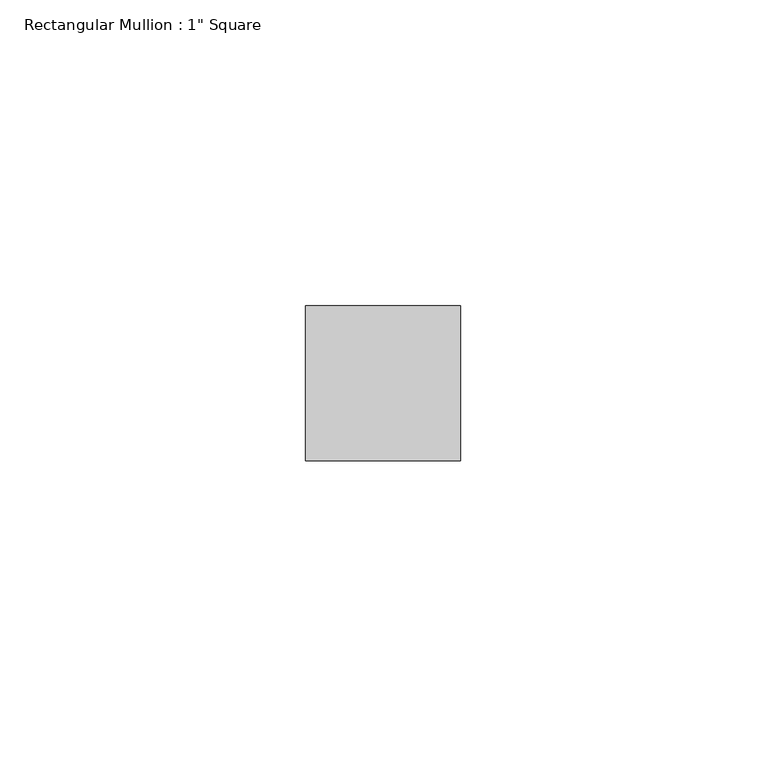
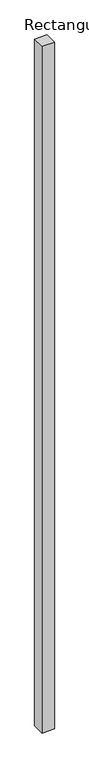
"""IFC4 building model written with IfcOpenShell, lengths in millimetres: member geometry."""

from ifc_helpers import new_model, si_unit, frame, origin, place, context, project, spatial, polyline, outline, extrude, source, transform, mapped, element, save


def member_8a20969f(model_context):
    return source(origin(), model_context, "Body", "SweptSolid", [
        extrude(outline(polyline([(12.7, 12.7), (12.7, -12.7), (-12.7, -12.7), (-12.7, 12.7), (12.7, 12.7)])), frame((0.0, 0.0, -1482.5626108), z_axis=(0.0, 0.0, 1.0), x_axis=(1.0, 0.0, 0.0)), (0.0, 0.0, 1.0), 1482.5626108),
    ])


if __name__ == "__main__":
    model = new_model("IFC4")
    model_context = context("Model", 3, world=origin())
    ifc_project = project(units=[si_unit("LENGTHUNIT", "METRE", prefix="MILLI")], contexts=[model_context])
    site = spatial("IfcSite", under=ifc_project)
    building = spatial("IfcBuilding", under=site)
    placement = place(None, origin())
    member_shape = member_8a20969f(model_context)
    element("IfcMember", 1, ObjectType="Rectangular Mullion : 1\" Square", at=placement, inside=building, context=model_context, shape_type="MappedRepresentation", body=[
        mapped(member_shape, transform((0.0, 0.0, 0.0), x_axis=(1.0, 0.0, 0.0), y_axis=(0.0, 1.0, 0.0), z_axis=(0.0, 0.0, 1.0))),
    ])
    save(model, "model.ifc")
